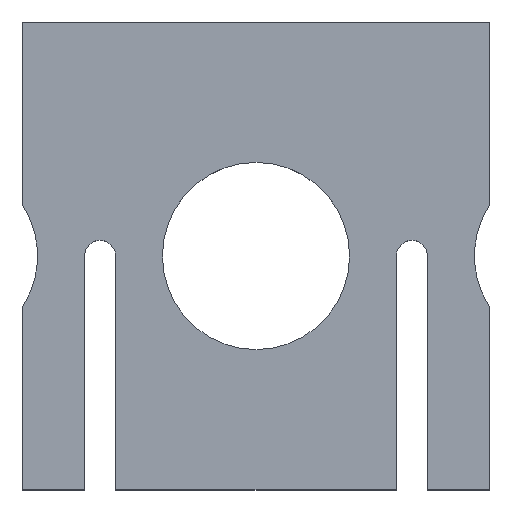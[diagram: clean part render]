
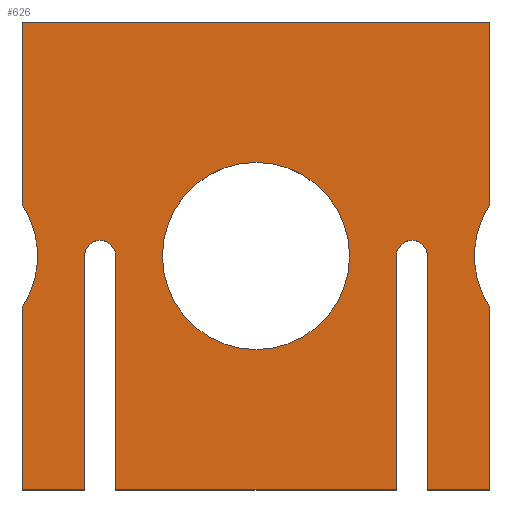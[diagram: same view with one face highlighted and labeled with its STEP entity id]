
A CAD part, top view. The second image highlights one B-rep face of the part: STEP entity #626.
In plain terms, the highlighted planar face has unit normal (0, 0, 1).
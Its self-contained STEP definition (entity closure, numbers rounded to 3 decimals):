
#73=CARTESIAN_POINT('',(257.175,47.625,6.35));
#74=VERTEX_POINT('',#73);
#75=CARTESIAN_POINT('',(238.125,47.625,6.35));
#76=DIRECTION('',(0.0,0.0,-1.0));
#77=DIRECTION('',(-1.0,0.0,0.0));
#78=AXIS2_PLACEMENT_3D('',#75,#76,#77);
#79=CIRCLE('',#78,19.05);
#80=EDGE_CURVE('',#74,#74,#79,.T.);
#112=CARTESIAN_POINT('',(273.05,47.625,6.35));
#113=VERTEX_POINT('',#112);
#120=CARTESIAN_POINT('',(266.7,47.625,6.35));
#121=VERTEX_POINT('',#120);
#122=CARTESIAN_POINT('',(269.875,47.625,6.35));
#123=DIRECTION('',(0.0,0.0,-1.0));
#124=DIRECTION('',(-1.0,0.0,0.0));
#125=AXIS2_PLACEMENT_3D('',#122,#123,#124);
#126=CIRCLE('',#125,3.175);
#127=EDGE_CURVE('',#121,#113,#126,.T.);
#152=CARTESIAN_POINT('',(266.7,0.0,6.35));
#153=VERTEX_POINT('',#152);
#154=CARTESIAN_POINT('',(266.7,0.0,6.35));
#155=DIRECTION('',(0.0,1.0,0.0));
#156=VECTOR('',#155,47.625);
#157=LINE('',#154,#156);
#158=EDGE_CURVE('',#153,#121,#157,.T.);
#183=CARTESIAN_POINT('',(209.55,0.0,6.35));
#184=VERTEX_POINT('',#183);
#185=CARTESIAN_POINT('',(209.55,0.0,6.35));
#186=DIRECTION('',(1.0,0.0,0.0));
#187=VECTOR('',#186,57.15);
#188=LINE('',#185,#187);
#189=EDGE_CURVE('',#184,#153,#188,.T.);
#214=CARTESIAN_POINT('',(209.55,47.625,6.35));
#215=VERTEX_POINT('',#214);
#216=CARTESIAN_POINT('',(209.55,47.625,6.35));
#217=DIRECTION('',(0.0,-1.0,0.0));
#218=VECTOR('',#217,47.625);
#219=LINE('',#216,#218);
#220=EDGE_CURVE('',#215,#184,#219,.T.);
#246=CARTESIAN_POINT('',(203.2,47.625,6.35));
#247=VERTEX_POINT('',#246);
#248=CARTESIAN_POINT('',(206.375,47.625,6.35));
#249=DIRECTION('',(0.0,0.0,-1.0));
#250=DIRECTION('',(-1.0,0.0,0.0));
#251=AXIS2_PLACEMENT_3D('',#248,#249,#250);
#252=CIRCLE('',#251,3.175);
#253=EDGE_CURVE('',#247,#215,#252,.T.);
#278=CARTESIAN_POINT('',(203.2,0.0,6.35));
#279=VERTEX_POINT('',#278);
#280=CARTESIAN_POINT('',(203.2,0.0,6.35));
#281=DIRECTION('',(0.0,1.0,0.0));
#282=VECTOR('',#281,47.625);
#283=LINE('',#280,#282);
#284=EDGE_CURVE('',#279,#247,#283,.T.);
#309=CARTESIAN_POINT('',(190.5,0.0,6.35));
#310=VERTEX_POINT('',#309);
#311=CARTESIAN_POINT('',(190.5,0.0,6.35));
#312=DIRECTION('',(1.0,0.0,0.0));
#313=VECTOR('',#312,12.7);
#314=LINE('',#311,#313);
#315=EDGE_CURVE('',#310,#279,#314,.T.);
#340=CARTESIAN_POINT('',(190.5,37.095,6.35));
#341=VERTEX_POINT('',#340);
#342=CARTESIAN_POINT('',(190.5,37.095,6.35));
#343=DIRECTION('',(0.0,-1.0,0.0));
#344=VECTOR('',#343,37.095);
#345=LINE('',#342,#344);
#346=EDGE_CURVE('',#341,#310,#345,.T.);
#372=CARTESIAN_POINT('',(190.5,58.155,6.35));
#373=VERTEX_POINT('',#372);
#374=CARTESIAN_POINT('',(174.625,47.625,6.35));
#375=DIRECTION('',(0.0,0.0,-1.0));
#376=DIRECTION('',(-0.833,0.553,0.0));
#377=AXIS2_PLACEMENT_3D('',#374,#375,#376);
#378=CIRCLE('',#377,19.05);
#379=EDGE_CURVE('',#373,#341,#378,.T.);
#404=CARTESIAN_POINT('',(190.5,95.25,6.35));
#405=VERTEX_POINT('',#404);
#406=CARTESIAN_POINT('',(190.5,95.25,6.35));
#407=DIRECTION('',(0.0,-1.0,0.0));
#408=VECTOR('',#407,37.095);
#409=LINE('',#406,#408);
#410=EDGE_CURVE('',#405,#373,#409,.T.);
#435=CARTESIAN_POINT('',(285.75,95.25,6.35));
#436=VERTEX_POINT('',#435);
#437=CARTESIAN_POINT('',(285.75,95.25,6.35));
#438=DIRECTION('',(-1.0,0.0,0.0));
#439=VECTOR('',#438,95.25);
#440=LINE('',#437,#439);
#441=EDGE_CURVE('',#436,#405,#440,.T.);
#466=CARTESIAN_POINT('',(285.75,58.155,6.35));
#467=VERTEX_POINT('',#466);
#468=CARTESIAN_POINT('',(285.75,58.155,6.35));
#469=DIRECTION('',(0.0,1.0,0.0));
#470=VECTOR('',#469,37.095);
#471=LINE('',#468,#470);
#472=EDGE_CURVE('',#467,#436,#471,.T.);
#498=CARTESIAN_POINT('',(285.75,37.095,6.35));
#499=VERTEX_POINT('',#498);
#500=CARTESIAN_POINT('',(301.625,47.625,6.35));
#501=DIRECTION('',(0.0,0.0,-1.0));
#502=DIRECTION('',(0.833,-0.553,0.0));
#503=AXIS2_PLACEMENT_3D('',#500,#501,#502);
#504=CIRCLE('',#503,19.05);
#505=EDGE_CURVE('',#499,#467,#504,.T.);
#530=CARTESIAN_POINT('',(285.75,0.0,6.35));
#531=VERTEX_POINT('',#530);
#532=CARTESIAN_POINT('',(285.75,0.0,6.35));
#533=DIRECTION('',(0.0,1.0,0.0));
#534=VECTOR('',#533,37.095);
#535=LINE('',#532,#534);
#536=EDGE_CURVE('',#531,#499,#535,.T.);
#561=CARTESIAN_POINT('',(273.05,0.0,6.35));
#562=VERTEX_POINT('',#561);
#563=CARTESIAN_POINT('',(273.05,0.0,6.35));
#564=DIRECTION('',(1.0,0.0,0.0));
#565=VECTOR('',#564,12.7);
#566=LINE('',#563,#565);
#567=EDGE_CURVE('',#562,#531,#566,.T.);
#590=CARTESIAN_POINT('',(273.05,47.625,6.35));
#591=DIRECTION('',(0.0,-1.0,0.0));
#592=VECTOR('',#591,47.625);
#593=LINE('',#590,#592);
#594=EDGE_CURVE('',#113,#562,#593,.T.);
#600=CARTESIAN_POINT('',(238.125,40.722,6.35));
#601=DIRECTION('',(0.0,0.0,1.0));
#602=DIRECTION('',(1.0,0.0,0.0));
#603=AXIS2_PLACEMENT_3D('',#600,#601,#602);
#604=PLANE('',#603);
#605=ORIENTED_EDGE('',*,*,#594,.T.);
#606=ORIENTED_EDGE('',*,*,#567,.T.);
#607=ORIENTED_EDGE('',*,*,#536,.T.);
#608=ORIENTED_EDGE('',*,*,#505,.T.);
#609=ORIENTED_EDGE('',*,*,#472,.T.);
#610=ORIENTED_EDGE('',*,*,#441,.T.);
#611=ORIENTED_EDGE('',*,*,#410,.T.);
#612=ORIENTED_EDGE('',*,*,#379,.T.);
#613=ORIENTED_EDGE('',*,*,#346,.T.);
#614=ORIENTED_EDGE('',*,*,#315,.T.);
#615=ORIENTED_EDGE('',*,*,#284,.T.);
#616=ORIENTED_EDGE('',*,*,#253,.T.);
#617=ORIENTED_EDGE('',*,*,#220,.T.);
#618=ORIENTED_EDGE('',*,*,#189,.T.);
#619=ORIENTED_EDGE('',*,*,#158,.T.);
#620=ORIENTED_EDGE('',*,*,#127,.T.);
#621=EDGE_LOOP('',(#605,#606,#607,#608,#609,#610,#611,#612,#613,#614,#615,#616,#617,#618,#619,#620));
#622=FACE_OUTER_BOUND('',#621,.T.);
#623=ORIENTED_EDGE('',*,*,#80,.T.);
#624=EDGE_LOOP('',(#623));
#625=FACE_BOUND('',#624,.T.);
#626=ADVANCED_FACE('',(#622,#625),#604,.T.);
